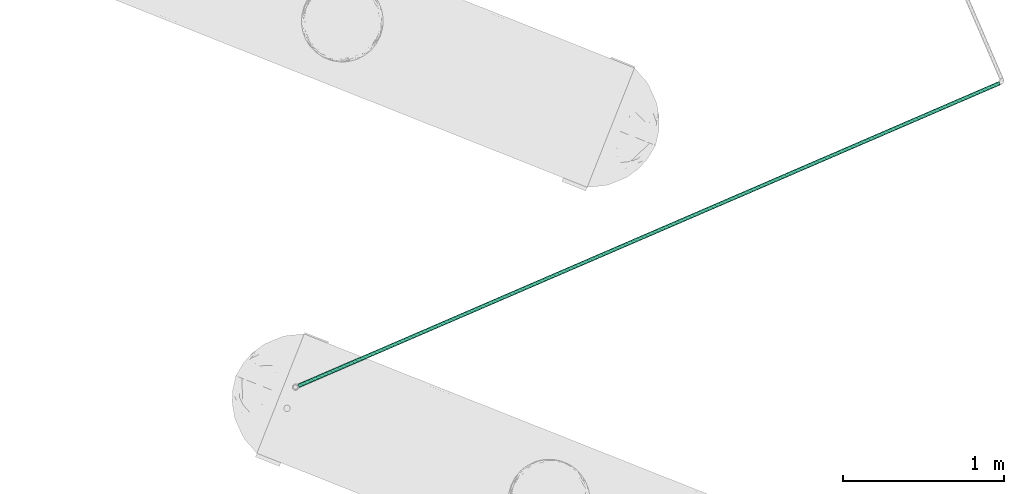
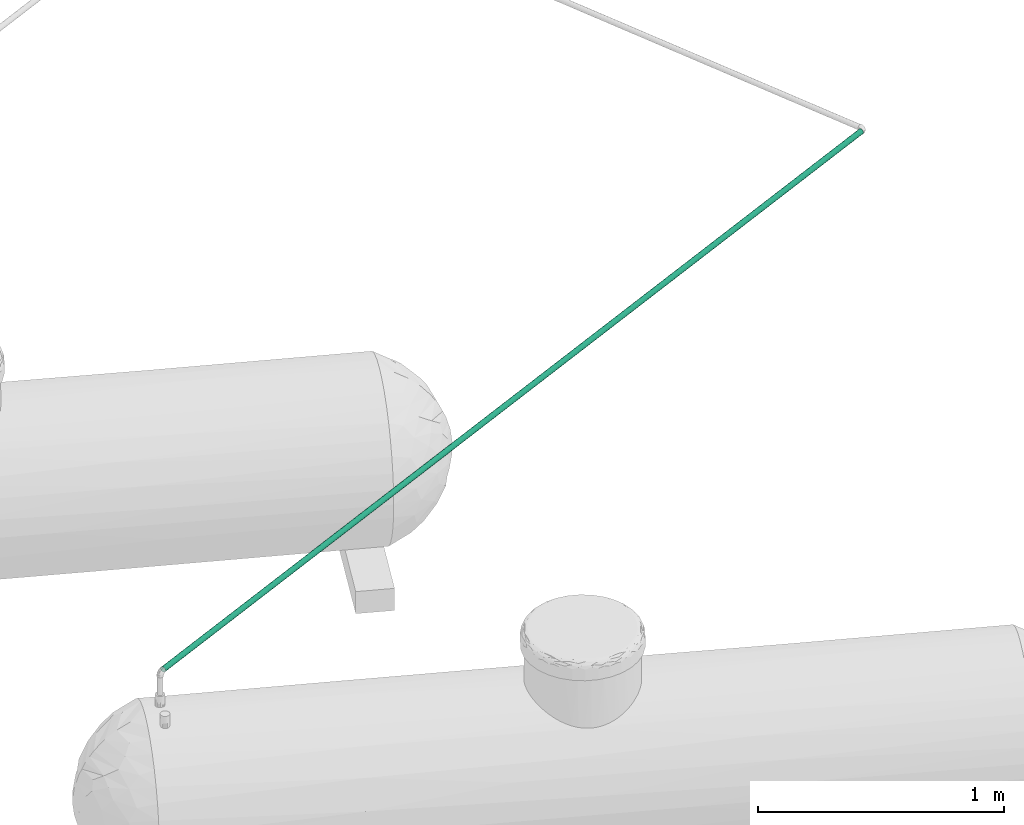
# One storey, part 2 of 26: 1 pipe segment.
"""IFC4 building model written with IfcOpenShell, lengths in metres."""

from ifc_helpers import new_model, entity, si_unit, converted_unit, derived_unit, direction, frame, origin, place, context, subcontext, project, spatial, arc, indexed_curve, outline, extrude, material, type_object, element, save


model = new_model("IFC4")

# Units and contexts
model_context = context("Model", 3, precision=1e-05, world=origin(), true_north=direction((6.12323399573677e-17, 1.0)))
body_context = subcontext(model_context, "Body", "Model", "MODEL_VIEW")
ifc_project = project(units=[si_unit("LENGTHUNIT", "METRE"), si_unit("AREAUNIT", "SQUARE_METRE"), si_unit("VOLUMEUNIT", "CUBIC_METRE"), si_unit("PRESSUREUNIT", "PASCAL"), derived_unit("VOLUMETRICFLOWRATEUNIT", [(si_unit("LENGTHUNIT", "METRE", prefix="DECI"), 3), (si_unit("TIMEUNIT", "SECOND"), -1)]), converted_unit("PLANEANGLEUNIT", "DEGREE", entity("IfcPlaneAngleMeasure", 0.0174532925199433), si_unit("PLANEANGLEUNIT", "RADIAN"), dimensions=[0, 0, 0, 0, 0, 0, 0])], contexts=[model_context])

# Site, building, storey
site_placement = place(None, origin())
site = spatial("IfcSite", under=ifc_project, at=site_placement, Name="Default", CompositionType="ELEMENT")
building_placement = place(site_placement, frame((24.575451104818, -55.896759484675, 317.15), z_axis=(0.0, 0.0, 1.0), x_axis=(-0.396377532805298, 0.918087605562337, 0.0)))
building = spatial("IfcBuilding", under=site, at=building_placement, CompositionType="ELEMENT")
storey_placement = place(building_placement, origin())
storey = spatial("IfcBuildingStorey", under=building, at=storey_placement, Name="Nivel 1", CompositionType="ELEMENT", Elevation=0.0)

# Pipe segment
ifc_material = material(Name="Cobre", Category="Undefined")
pipe_segment_type = type_object("IfcPipeSegmentType", Name="Pipe Types:GAS", PredefinedType="NOTDEFINED")
pipe_segment_placement = place(storey_placement, origin())
element("IfcPipeSegment", 1, at=pipe_segment_placement, inside=storey, type_object=pipe_segment_type, material=ifc_material, Name="Pipe Types:GAS", ObjectType="Pipe Types:GAS", PredefinedType="NOTDEFINED", context=body_context, shape_type="SweptSolid", body=[
    extrude(outline(indexed_curve([(0.0125000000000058, -6.76791955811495e-17), (0.00883883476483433, 0.00883883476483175), (4.33146851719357e-15, 0.0124999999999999), (-0.00883883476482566, 0.00883883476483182), (-0.0124999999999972, 0.0), (-0.00883883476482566, -0.00883883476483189), (4.33146851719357e-15, -0.0125000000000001), (0.00883883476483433, -0.00883883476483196)], segments=[arc(1, 2, 3), arc(3, 4, 5), arc(5, 6, 7), arc(7, 8, 1)], self_intersect=False)), frame((-36.5944088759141, 50.493902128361, -0.44), z_axis=(0.0, 1.0, 0.0), x_axis=(-1.0, 0.0, 0.0)), (0.0, 0.0, 1.0), 4.75872500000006),
])

save(model, "model.ifc")
